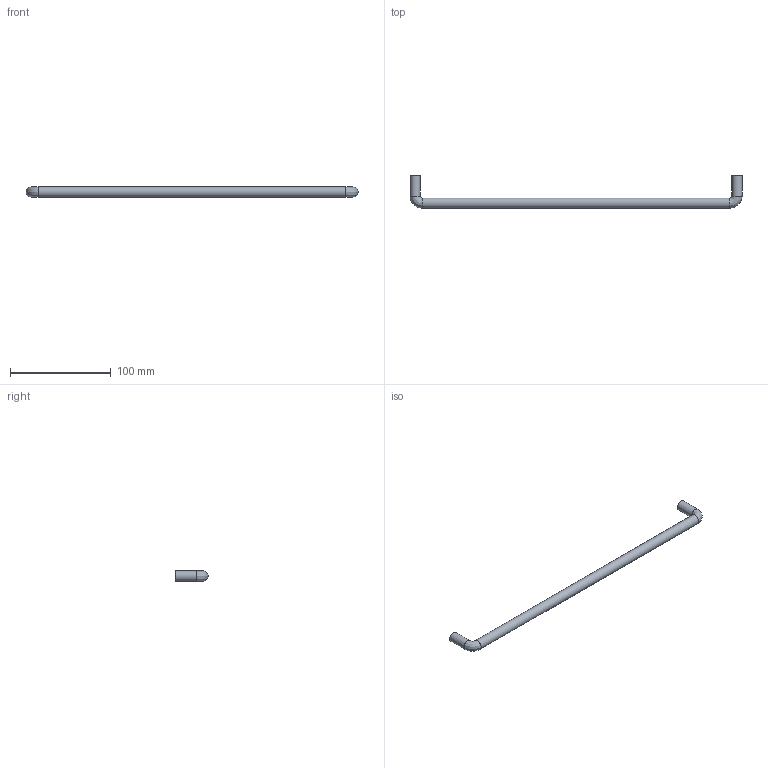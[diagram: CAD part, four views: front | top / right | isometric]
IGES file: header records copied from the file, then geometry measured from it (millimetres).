
Start section: Data from Parasolid IGES Translator 15.0.47, Copyright(c) 2006 Siemens P LM Software. All Rights Reserved.
Global section: file name: 9069865.igs; native system:  By UGS Corp.; preprocessor: XPlus GENERIC/IGES 3.0; author: Noname; organization: Noname; date: 20140122.155428; units: millimetre
Bounding box: 330 x 32 x 10 mm (x, y, z)
Surface area: 11969.2 mm2 (no closed solid volume)
Topology: 0 solids, 0 shells, 11 faces, 42 edges, 38 vertices
Faces by surface type: revolution 7, extrusion 4
